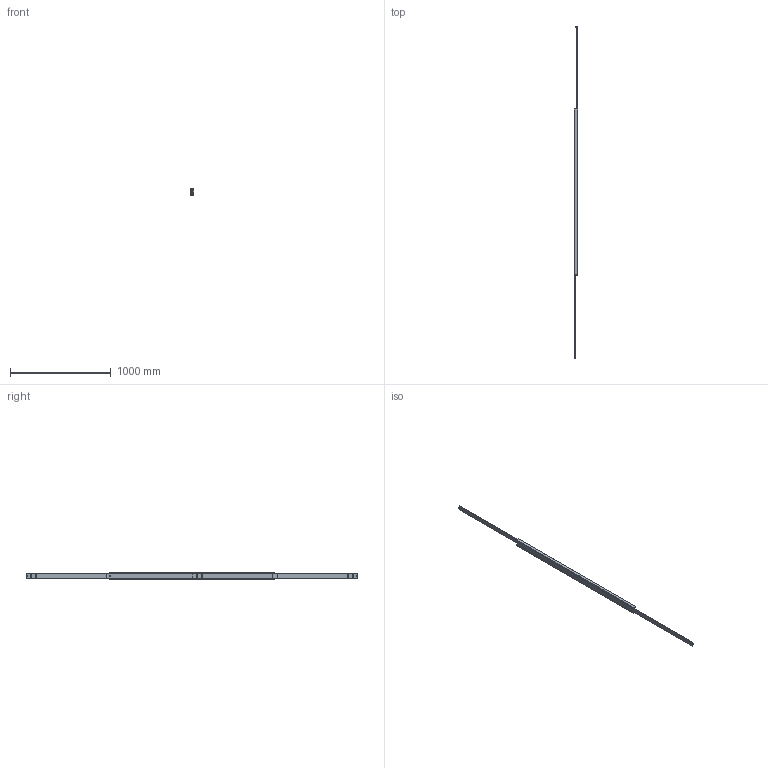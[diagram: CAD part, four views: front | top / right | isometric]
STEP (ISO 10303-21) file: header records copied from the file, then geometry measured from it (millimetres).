
FILE_DESCRIPTION(/* description */ (''),/* implementation_level */ '2;1');
FILE_NAME(/* name */ 'D:\Zeichnungen Schienen Komplett\MX-DTP70\MX-DTP70.165\MX-DTP70.165_ausgefahren.step',/* time_stamp */ '2022-08-30T15:21:18+02:00',/* author */ ('zmile'),/* organization */ (''),/* preprocessor_version */ 'ST-DEVELOPER v16.13',/* originating_system */ 'AutoCAD Mechanical',/* authorisation */ '');
FILE_SCHEMA (('AUTOMOTIVE_DESIGN { 1 0 10303 214 3 1 1 }'));
Products named in the file (1): Product
Bounding box: 32 x 3300 x 70 mm (x, y, z)
Volume: 2935040 mm3; surface area: 1043179.6 mm2
Topology: 115 solids, 115 shells, 434 faces, 1240 edges, 824 vertices
Faces by surface type: cylinder 148, sphere 108, plane 86, bspline 86, torus 6
Full cylindrical faces by diameter (mm): 9 x108, 13 x2
Entity records: 197192 total; most frequent: CARTESIAN_POINT 187142, ORIENTED_EDGE 1812, DIRECTION 1742, EDGE_CURVE 906, EDGE_LOOP 822, VERTEX_POINT 822, AXIS2_PLACEMENT_3D 765, FACE_OUTER_BOUND 434
